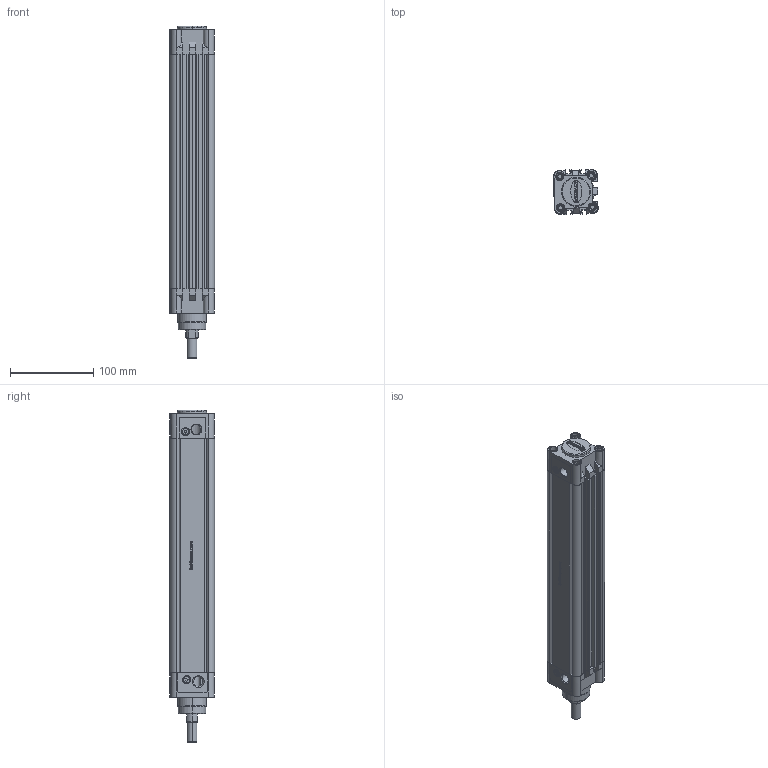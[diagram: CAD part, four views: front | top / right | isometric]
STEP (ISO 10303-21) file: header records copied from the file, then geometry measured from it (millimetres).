
FILE_DESCRIPTION (( 'STEP AP214' ), '1' );
FILE_NAME ('RIC_40_250_WEB.STEP', '2021-01-10T10:51:05', ( '' ), ( '' ), 'SwSTEP 2.0', 'SolidWorks 2021', '' );
FILE_SCHEMA (( 'AUTOMOTIVE_DESIGN' ));
Length unit declared in the file: millimetre
Products named in the file (8): RIC_40_BORU_WEB_RIC 40-250; RIC_40_250_WEB; ric40onkapak; 16_K_MIL_WEB; ric40bogazkecesi; ric40arkakapak; m6kapakcivatasi; yastýklama civatasý
Assembly tree (15 placements, depth 2):
  RIC_40_250_WEB
    ric40arkakapak
    ric40onkapak
    RIC_40_BORU_WEB_RIC 40-250
    ric40bogazkecesi
    yastýklama civatasý  x2
    m6kapakcivatasi  x8
    16_K_MIL_WEB
Bounding box: 54.22 x 54.22 x 399.5 mm (x, y, z)
Volume: 422565.7 mm3; surface area: 201150.4 mm2
Topology: 22 solids, 22 shells, 1035 faces, 2485 edges, 1585 vertices
Faces by surface type: plane 553, cylinder 227, cone 131, bspline 98, torus 26
Entity records: 31879 total; most frequent: CARTESIAN_POINT 10352, ORIENTED_EDGE 3982, DIRECTION 3656, EDGE_CURVE 1991, VERTEX_POINT 1289, VECTOR 1264, LINE 1264, AXIS2_PLACEMENT_3D 1196
